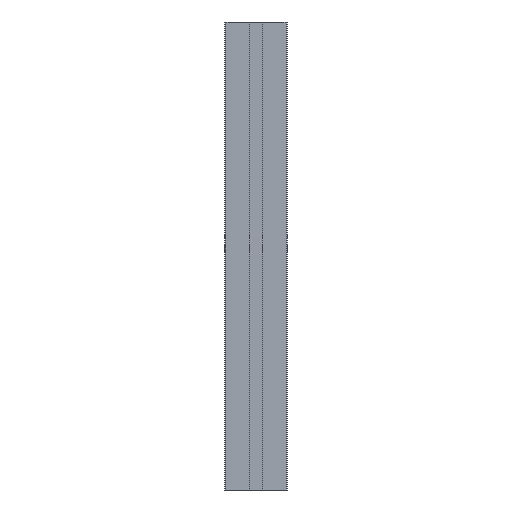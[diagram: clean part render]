
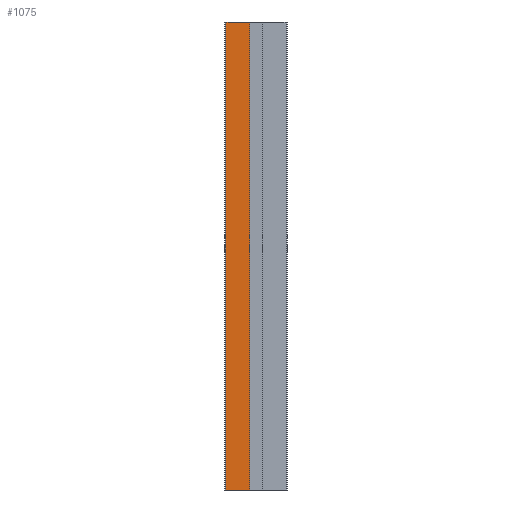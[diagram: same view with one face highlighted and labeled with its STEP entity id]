
A CAD part, left-side view. The second image highlights one B-rep face of the part: STEP entity #1075.
In plain terms, the highlighted planar face has unit normal (-1, 0, 0).
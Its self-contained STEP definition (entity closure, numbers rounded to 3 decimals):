
#18 = CARTESIAN_POINT ( 'NONE',  ( 8033.479, 2644.723, 0. ) ) ;
#195 = ORIENTED_EDGE ( 'NONE', *, *, #594, .F. ) ;
#351 = VECTOR ( 'NONE', #1308, 1000. ) ;
#365 = CARTESIAN_POINT ( 'NONE',  ( 8033.479, 2644.723, 300. ) ) ;
#370 = CARTESIAN_POINT ( 'NONE',  ( 8033.479, 2644.723, 300. ) ) ;
#409 = LINE ( 'NONE', #1510, #351 ) ;
#532 = EDGE_CURVE ( 'NONE', #1742, #1805, #650, .T. ) ;
#545 = ORIENTED_EDGE ( 'NONE', *, *, #1418, .T. ) ;
#575 = LINE ( 'NONE', #1241, #1367 ) ;
#594 = EDGE_CURVE ( 'NONE', #1805, #1387, #1356, .T. ) ;
#600 = EDGE_LOOP ( 'NONE', ( #1818, #195, #604, #545 ) ) ;
#604 = ORIENTED_EDGE ( 'NONE', *, *, #532, .F. ) ;
#650 = LINE ( 'NONE', #370, #1887 ) ;
#655 = EDGE_CURVE ( 'NONE', #1144, #1387, #409, .T. ) ;
#748 = CARTESIAN_POINT ( 'NONE',  ( 8033.479, 2644.723, 300. ) ) ;
#910 = CARTESIAN_POINT ( 'NONE',  ( 8033.479, 2629.573, 0. ) ) ;
#1043 = DIRECTION ( 'NONE',  ( 0., 0., -1. ) ) ;
#1052 = DIRECTION ( 'NONE',  ( 0., 0., -1. ) ) ;
#1075 = ADVANCED_FACE ( 'NONE', ( #1779 ), #1232, .F. ) ;
#1144 = VERTEX_POINT ( 'NONE', #18 ) ;
#1232 = PLANE ( 'NONE',  #2047 ) ;
#1241 = CARTESIAN_POINT ( 'NONE',  ( 8033.479, 2644.723, 300. ) ) ;
#1304 = CARTESIAN_POINT ( 'NONE',  ( 8033.479, 2629.573, 300. ) ) ;
#1308 = DIRECTION ( 'NONE',  ( 0., -1., 0. ) ) ;
#1356 = LINE ( 'NONE', #1919, #1738 ) ;
#1367 = VECTOR ( 'NONE', #2023, 1000. ) ;
#1387 = VERTEX_POINT ( 'NONE', #910 ) ;
#1418 = EDGE_CURVE ( 'NONE', #1742, #1144, #575, .T. ) ;
#1510 = CARTESIAN_POINT ( 'NONE',  ( 8033.479, 2644.723, 0. ) ) ;
#1738 = VECTOR ( 'NONE', #1043, 1000. ) ;
#1742 = VERTEX_POINT ( 'NONE', #365 ) ;
#1779 = FACE_OUTER_BOUND ( 'NONE', #600, .T. ) ;
#1805 = VERTEX_POINT ( 'NONE', #1304 ) ;
#1818 = ORIENTED_EDGE ( 'NONE', *, *, #655, .T. ) ;
#1887 = VECTOR ( 'NONE', #1971, 1000. ) ;
#1919 = CARTESIAN_POINT ( 'NONE',  ( 8033.479, 2629.573, 300. ) ) ;
#1971 = DIRECTION ( 'NONE',  ( 0., -1., 0. ) ) ;
#2023 = DIRECTION ( 'NONE',  ( 0., 0., -1. ) ) ;
#2047 = AXIS2_PLACEMENT_3D ( 'NONE', #748, #2056, #1052 ) ;
#2056 = DIRECTION ( 'NONE',  ( 1., 0., 0. ) ) ;
